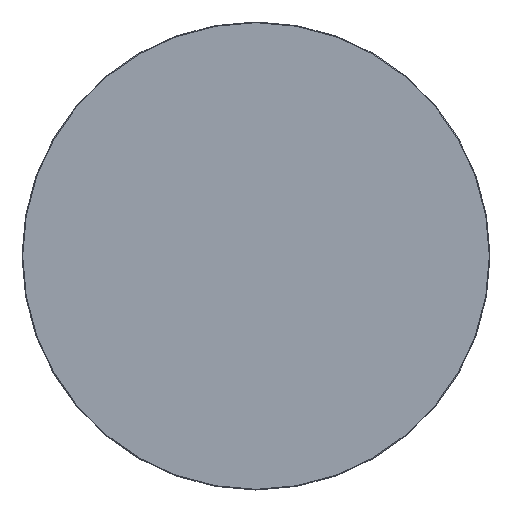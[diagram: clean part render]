
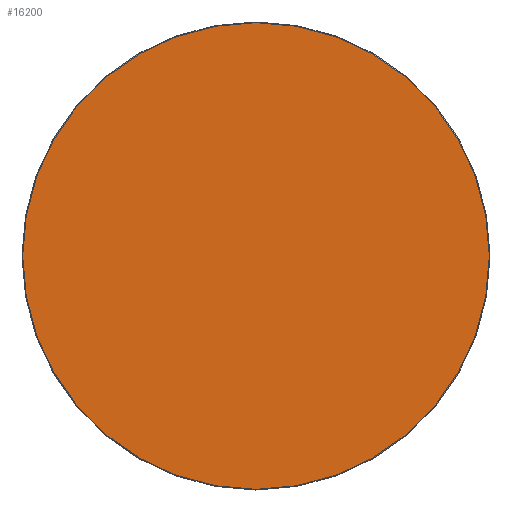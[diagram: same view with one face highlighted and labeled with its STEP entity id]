
A CAD part, top view. The second image highlights one B-rep face of the part: STEP entity #16200.
In plain terms, the highlighted planar face has unit normal (0, 0, 1).
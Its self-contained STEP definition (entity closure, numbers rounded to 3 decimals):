
#16125=CARTESIAN_POINT('',(0.,0.,20.));
#16126=DIRECTION('',(1.,0.,0.));
#16127=DIRECTION('',(0.,0.,1.));
#16128=AXIS2_PLACEMENT_3D('',#16125,#16127,#16126);
#16129=PLANE('',#16128);
#16130=CARTESIAN_POINT('',(-0.5,-498.5,20.));
#16131=VERTEX_POINT('',#16130);
#16132=CARTESIAN_POINT('',(0.5,-498.5,20.));
#16133=VERTEX_POINT('',#16132);
#16134=CARTESIAN_POINT('',(-0.5,-498.5,20.));
#16135=DIRECTION('',(1.,0.,0.));
#16136=VECTOR('',#16135,1.);
#16137=LINE('',#16134,#16136);
#16138=EDGE_CURVE('',#16131,#16133,#16137,.T.);
#16139=ORIENTED_EDGE('E105',*,*,#16138,.T.);
#16140=CARTESIAN_POINT('',(498.5,-0.5,20.));
#16141=VERTEX_POINT('',#16140);
#16142=CARTESIAN_POINT('',(0.5,-0.5,20.));
#16143=DIRECTION('',(0.,-1.,0.));
#16144=DIRECTION('',(0.,0.,1.));
#16145=AXIS2_PLACEMENT_3D('',#16142,#16144,#16143);
#16146=CIRCLE('',#16145,498.);
#16147=EDGE_CURVE('',#16133,#16141,#16146,.T.);
#16148=ORIENTED_EDGE('E107',*,*,#16147,.T.);
#16149=CARTESIAN_POINT('',(498.5,0.5,20.));
#16150=VERTEX_POINT('',#16149);
#16151=CARTESIAN_POINT('',(498.5,-0.5,20.));
#16152=DIRECTION('',(0.,1.,0.));
#16153=VECTOR('',#16152,1.);
#16154=LINE('',#16151,#16153);
#16155=EDGE_CURVE('',#16141,#16150,#16154,.T.);
#16156=ORIENTED_EDGE('E109',*,*,#16155,.T.);
#16157=CARTESIAN_POINT('',(0.5,498.5,20.));
#16158=VERTEX_POINT('',#16157);
#16159=CARTESIAN_POINT('',(0.5,0.5,20.));
#16160=DIRECTION('',(1.,0.,0.));
#16161=DIRECTION('',(0.,0.,1.));
#16162=AXIS2_PLACEMENT_3D('',#16159,#16161,#16160);
#16163=CIRCLE('',#16162,498.);
#16164=EDGE_CURVE('',#16150,#16158,#16163,.T.);
#16165=ORIENTED_EDGE('E111',*,*,#16164,.T.);
#16166=CARTESIAN_POINT('',(-0.5,498.5,20.));
#16167=VERTEX_POINT('',#16166);
#16168=CARTESIAN_POINT('',(0.5,498.5,20.));
#16169=DIRECTION('',(-1.,0.,0.));
#16170=VECTOR('',#16169,1.);
#16171=LINE('',#16168,#16170);
#16172=EDGE_CURVE('',#16158,#16167,#16171,.T.);
#16173=ORIENTED_EDGE('E113',*,*,#16172,.T.);
#16174=CARTESIAN_POINT('',(-498.5,0.5,20.));
#16175=VERTEX_POINT('',#16174);
#16176=CARTESIAN_POINT('',(-0.5,0.5,20.));
#16177=DIRECTION('',(0.,1.,0.));
#16178=DIRECTION('',(0.,0.,1.));
#16179=AXIS2_PLACEMENT_3D('',#16176,#16178,#16177);
#16180=CIRCLE('',#16179,498.);
#16181=EDGE_CURVE('',#16167,#16175,#16180,.T.);
#16182=ORIENTED_EDGE('E115',*,*,#16181,.T.);
#16183=CARTESIAN_POINT('',(-498.5,-0.5,20.));
#16184=VERTEX_POINT('',#16183);
#16185=CARTESIAN_POINT('',(-498.5,0.5,20.));
#16186=DIRECTION('',(0.,-1.,0.));
#16187=VECTOR('',#16186,1.);
#16188=LINE('',#16185,#16187);
#16189=EDGE_CURVE('',#16175,#16184,#16188,.T.);
#16190=ORIENTED_EDGE('E117',*,*,#16189,.T.);
#16191=CARTESIAN_POINT('',(-0.5,-0.5,20.));
#16192=DIRECTION('',(-1.,0.,0.));
#16193=DIRECTION('',(-0.,0.,1.));
#16194=AXIS2_PLACEMENT_3D('',#16191,#16193,#16192);
#16195=CIRCLE('',#16194,498.);
#16196=EDGE_CURVE('',#16184,#16131,#16195,.T.);
#16197=ORIENTED_EDGE('E119',*,*,#16196,.T.);
#16198=EDGE_LOOP('',(#16139,#16148,#16156,#16165,#16173,#16182,#16190,#16197));
#16199=FACE_OUTER_BOUND('',#16198,.T.);
#16200=ADVANCED_FACE('F2',(#16199),#16129,.T.);
